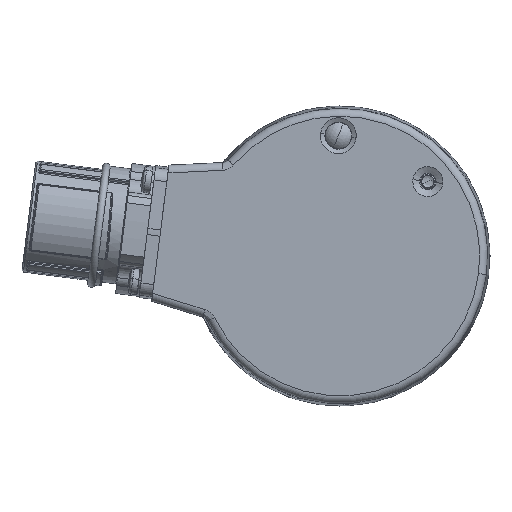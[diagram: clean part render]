
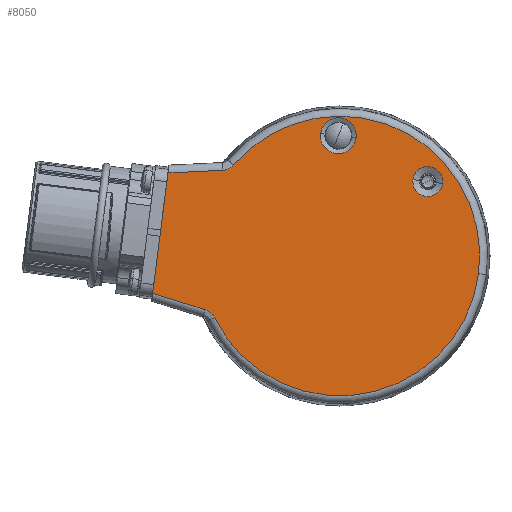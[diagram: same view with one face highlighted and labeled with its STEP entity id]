
A CAD part, left-side view. The second image highlights one B-rep face of the part: STEP entity #8050.
In plain terms, the highlighted planar face has unit normal (-1, 0, 0).
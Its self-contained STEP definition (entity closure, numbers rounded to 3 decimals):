
#122 = EDGE_CURVE ( 'NONE', #2856, #9923, #7515, .T. ) ;
#248 = CARTESIAN_POINT ( 'NONE',  ( -30.5, 22.636, 16.559 ) ) ;
#371 = EDGE_CURVE ( 'NONE', #1240, #3982, #4561, .T. ) ;
#477 = FACE_BOUND ( 'NONE', #19705, .T. ) ;
#527 = CARTESIAN_POINT ( 'NONE',  ( -30.5, 26.06, -10.365 ) ) ;
#560 = EDGE_CURVE ( 'NONE', #2142, #8191, #19206, .T. ) ;
#610 = ORIENTED_EDGE ( 'NONE', *, *, #13306, .F. ) ;
#938 = CARTESIAN_POINT ( 'NONE',  ( -30.5, -3.133, 22.811 ) ) ;
#1213 = EDGE_CURVE ( 'NONE', #2856, #5410, #8730, .T. ) ;
#1240 = VERTEX_POINT ( 'NONE', #20672 ) ;
#1431 = CARTESIAN_POINT ( 'NONE',  ( -30.5, 0.305, 23.248 ) ) ;
#1683 = AXIS2_PLACEMENT_3D ( 'NONE', #9900, #21857, #11617 ) ;
#1851 = EDGE_CURVE ( 'NONE', #18017, #14512, #12423, .T. ) ;
#1864 = CARTESIAN_POINT ( 'NONE',  ( -30.5, 22.431, 16.569 ) ) ;
#1938 = CARTESIAN_POINT ( 'NONE',  ( -30.5, 21.644, 16.771 ) ) ;
#2142 = VERTEX_POINT ( 'NONE', #14781 ) ;
#2491 = ORIENTED_EDGE ( 'NONE', *, *, #122, .T. ) ;
#2536 = CARTESIAN_POINT ( 'NONE',  ( -30.5, 36.392, -8.728 ) ) ;
#2822 = EDGE_CURVE ( 'NONE', #14384, #5410, #6433, .T. ) ;
#2856 = VERTEX_POINT ( 'NONE', #20439 ) ;
#2927 = DIRECTION ( 'NONE',  ( 1., 0., 0. ) ) ;
#2985 = DIRECTION ( 'NONE',  ( 1., 0., 0. ) ) ;
#3563 = ORIENTED_EDGE ( 'NONE', *, *, #371, .T. ) ;
#3631 = CARTESIAN_POINT ( 'NONE',  ( -30.5, 21.104, 17.059 ) ) ;
#3763 = CARTESIAN_POINT ( 'NONE',  ( -30.5, 36.2, -7.217 ) ) ;
#3827 = CARTESIAN_POINT ( 'NONE',  ( -30.5, 24.347, -11.725 ) ) ;
#3982 = VERTEX_POINT ( 'NONE', #938 ) ;
#4561 = CIRCLE ( 'NONE', #10757, 3.466 ) ;
#4569 = PLANE ( 'NONE',  #14895 ) ;
#5151 = CARTESIAN_POINT ( 'NONE',  ( -30.5, -16.981, 14.377 ) ) ;
#5351 = CARTESIAN_POINT ( 'NONE',  ( -30.5, 20.637, 17.446 ) ) ;
#5410 = VERTEX_POINT ( 'NONE', #15966 ) ;
#5494 = FACE_BOUND ( 'NONE', #12967, .T. ) ;
#5546 = CARTESIAN_POINT ( 'NONE',  ( -30.5, 24.256, -11.909 ) ) ;
#5582 = DIRECTION ( 'NONE',  ( 1., 0., 0. ) ) ;
#5659 = EDGE_CURVE ( 'NONE', #8191, #2142, #18047, .T. ) ;
#5870 = LINE ( 'NONE', #19732, #14402 ) ;
#5958 = DIRECTION ( 'NONE',  ( 0., -0.126, 0.992 ) ) ;
#6433 = CIRCLE ( 'NONE', #22024, 27.022 ) ;
#6639 = CARTESIAN_POINT ( 'NONE',  ( -30.5, 0., 0. ) ) ;
#6778 = CARTESIAN_POINT ( 'NONE',  ( -30.5, 0., 0. ) ) ;
#6875 = DIRECTION ( 'NONE',  ( 0., -0.992, -0.126 ) ) ;
#7260 = CARTESIAN_POINT ( 'NONE',  ( -30.5, 24.845, -11.083 ) ) ;
#7515 = LINE ( 'NONE', #21230, #16596 ) ;
#8050 = ADVANCED_FACE ( 'NONE', ( #477, #5494, #14025 ), #4569, .F. ) ;
#8191 = VERTEX_POINT ( 'NONE', #15292 ) ;
#8331 = DIRECTION ( 'NONE',  ( 0., -0.992, -0.126 ) ) ;
#8395 = EDGE_LOOP ( 'NONE', ( #18317, #2491, #610, #16919, #13875, #16002, #12583 ) ) ;
#8437 = EDGE_CURVE ( 'NONE', #3982, #1240, #10785, .T. ) ;
#8464 = DIRECTION ( 'NONE',  ( 0., -0.992, -0.126 ) ) ;
#8730 = B_SPLINE_CURVE_WITH_KNOTS ( 'NONE', 3,
 ( #248, #1864, #18940, #12120, #1938, #13833, #3631, #15559, #5351, #17273 ),
 .UNSPECIFIED., .F., .F.,
 ( 4, 2, 2, 2, 4 ),
 ( 0., 0.001, 0.001, 0.002, 0.002 ),
 .UNSPECIFIED. ) ;
#8841 = LINE ( 'NONE', #2536, #13374 ) ;
#8968 = CARTESIAN_POINT ( 'NONE',  ( -30.5, 25.324, -10.701 ) ) ;
#9553 = ORIENTED_EDGE ( 'NONE', *, *, #5659, .T. ) ;
#9759 = CARTESIAN_POINT ( 'NONE',  ( -30.5, 26.06, -10.365 ) ) ;
#9900 = CARTESIAN_POINT ( 'NONE',  ( -30.5, -16.981, 14.377 ) ) ;
#9923 = VERTEX_POINT ( 'NONE', #16473 ) ;
#10314 = VERTEX_POINT ( 'NONE', #3763 ) ;
#10667 = CARTESIAN_POINT ( 'NONE',  ( -30.5, 25.864, -10.426 ) ) ;
#10757 = AXIS2_PLACEMENT_3D ( 'NONE', #1431, #2985, #12188 ) ;
#10785 = CIRCLE ( 'NONE', #14456, 3.466 ) ;
#11617 = DIRECTION ( 'NONE',  ( 0., -0.992, -0.126 ) ) ;
#12120 = CARTESIAN_POINT ( 'NONE',  ( -30.5, 21.834, 16.701 ) ) ;
#12188 = DIRECTION ( 'NONE',  ( 0., -0.992, -0.126 ) ) ;
#12423 = B_SPLINE_CURVE_WITH_KNOTS ( 'NONE', 3,
 ( #5546, #3827, #14038, #17477, #7260, #19201, #8968, #20942, #10667, #527 ),
 .UNSPECIFIED., .F., .F.,
 ( 4, 2, 2, 2, 4 ),
 ( 0., 0.001, 0.001, 0.002, 0.002 ),
 .UNSPECIFIED. ) ;
#12490 = ORIENTED_EDGE ( 'NONE', *, *, #8437, .T. ) ;
#12583 = ORIENTED_EDGE ( 'NONE', *, *, #2822, .T. ) ;
#12967 = EDGE_LOOP ( 'NONE', ( #21608, #9553 ) ) ;
#13003 = DIRECTION ( 'NONE',  ( 0., 0.999, -0.048 ) ) ;
#13119 = CARTESIAN_POINT ( 'NONE',  ( -30.5, 0., 0. ) ) ;
#13306 = EDGE_CURVE ( 'NONE', #10314, #9923, #8841, .T. ) ;
#13374 = VECTOR ( 'NONE', #5958, 1000. ) ;
#13833 = CARTESIAN_POINT ( 'NONE',  ( -30.5, 21.279, 16.95 ) ) ;
#13875 = ORIENTED_EDGE ( 'NONE', *, *, #1851, .F. ) ;
#13935 = EDGE_CURVE ( 'NONE', #10314, #14512, #5870, .T. ) ;
#14025 = FACE_OUTER_BOUND ( 'NONE', #8395, .T. ) ;
#14038 = CARTESIAN_POINT ( 'NONE',  ( -30.5, 24.456, -11.55 ) ) ;
#14384 = VERTEX_POINT ( 'NONE', #16138 ) ;
#14402 = VECTOR ( 'NONE', #21470, 1000. ) ;
#14456 = AXIS2_PLACEMENT_3D ( 'NONE', #15799, #5582, #17517 ) ;
#14512 = VERTEX_POINT ( 'NONE', #9759 ) ;
#14573 = EDGE_CURVE ( 'NONE', #18017, #14384, #14597, .T. ) ;
#14597 = CIRCLE ( 'NONE', #14649, 27.022 ) ;
#14649 = AXIS2_PLACEMENT_3D ( 'NONE', #6639, #18574, #8331 ) ;
#14781 = CARTESIAN_POINT ( 'NONE',  ( -30.5, -14.106, 14.743 ) ) ;
#14833 = CARTESIAN_POINT ( 'NONE',  ( -30.5, 24.256, -11.909 ) ) ;
#14840 = DIRECTION ( 'NONE',  ( 0., -0.992, -0.126 ) ) ;
#14895 = AXIS2_PLACEMENT_3D ( 'NONE', #13119, #2927, #14840 ) ;
#15292 = CARTESIAN_POINT ( 'NONE',  ( -30.5, -19.857, 14.011 ) ) ;
#15559 = CARTESIAN_POINT ( 'NONE',  ( -30.5, 20.784, 17.306 ) ) ;
#15799 = CARTESIAN_POINT ( 'NONE',  ( -30.5, 0.305, 23.248 ) ) ;
#15966 = CARTESIAN_POINT ( 'NONE',  ( -30.5, 20.503, 17.601 ) ) ;
#16002 = ORIENTED_EDGE ( 'NONE', *, *, #14573, .T. ) ;
#16138 = CARTESIAN_POINT ( 'NONE',  ( -30.5, -26.806, -3.409 ) ) ;
#16473 = CARTESIAN_POINT ( 'NONE',  ( -30.5, 33.241, 16.049 ) ) ;
#16596 = VECTOR ( 'NONE', #13003, 1000. ) ;
#16919 = ORIENTED_EDGE ( 'NONE', *, *, #13935, .T. ) ;
#17079 = DIRECTION ( 'NONE',  ( 1., 0., 0. ) ) ;
#17273 = CARTESIAN_POINT ( 'NONE',  ( -30.5, 20.503, 17.601 ) ) ;
#17477 = CARTESIAN_POINT ( 'NONE',  ( -30.5, 24.706, -11.229 ) ) ;
#17517 = DIRECTION ( 'NONE',  ( 0., -0.992, -0.126 ) ) ;
#18017 = VERTEX_POINT ( 'NONE', #14833 ) ;
#18047 = CIRCLE ( 'NONE', #1683, 2.899 ) ;
#18317 = ORIENTED_EDGE ( 'NONE', *, *, #1213, .F. ) ;
#18574 = DIRECTION ( 'NONE',  ( -1., 0., 0. ) ) ;
#18722 = DIRECTION ( 'NONE',  ( -1., 0., 0. ) ) ;
#18940 = CARTESIAN_POINT ( 'NONE',  ( -30.5, 22.227, 16.6 ) ) ;
#19201 = CARTESIAN_POINT ( 'NONE',  ( -30.5, 25.154, -10.819 ) ) ;
#19206 = CIRCLE ( 'NONE', #19509, 2.899 ) ;
#19509 = AXIS2_PLACEMENT_3D ( 'NONE', #5151, #17079, #6875 ) ;
#19705 = EDGE_LOOP ( 'NONE', ( #3563, #12490 ) ) ;
#19732 = CARTESIAN_POINT ( 'NONE',  ( -30.5, 25.408, -10.568 ) ) ;
#20439 = CARTESIAN_POINT ( 'NONE',  ( -30.5, 22.636, 16.559 ) ) ;
#20672 = CARTESIAN_POINT ( 'NONE',  ( -30.5, 3.743, 23.685 ) ) ;
#20942 = CARTESIAN_POINT ( 'NONE',  ( -30.5, 25.678, -10.506 ) ) ;
#21230 = CARTESIAN_POINT ( 'NONE',  ( -30.5, 32.977, 16.062 ) ) ;
#21470 = DIRECTION ( 'NONE',  ( 0., -0.955, -0.297 ) ) ;
#21608 = ORIENTED_EDGE ( 'NONE', *, *, #560, .T. ) ;
#21857 = DIRECTION ( 'NONE',  ( 1., 0., 0. ) ) ;
#22024 = AXIS2_PLACEMENT_3D ( 'NONE', #6778, #18722, #8464 ) ;
